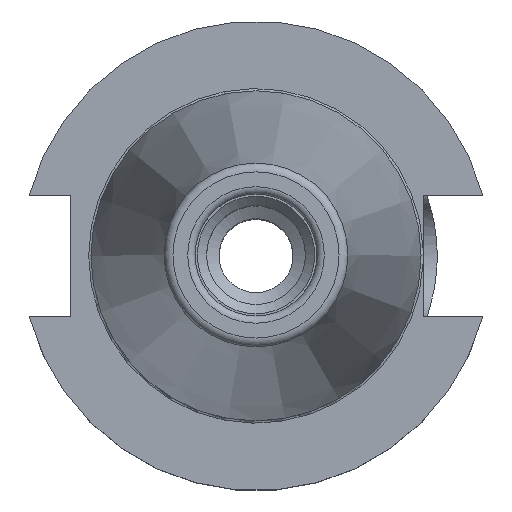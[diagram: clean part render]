
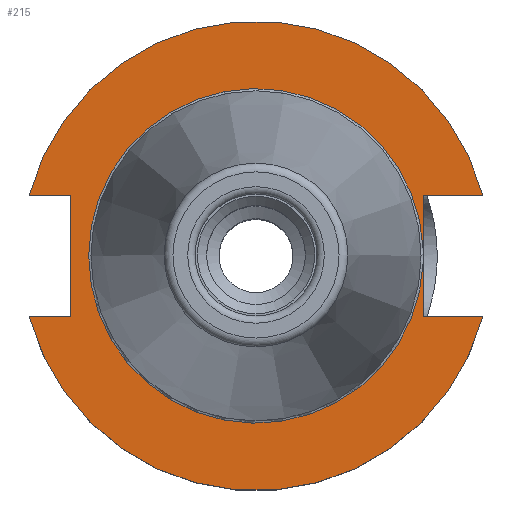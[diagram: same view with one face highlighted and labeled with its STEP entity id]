
A CAD part, top view. The second image highlights one B-rep face of the part: STEP entity #215.
In plain terms, the highlighted planar face has unit normal (0, 0, 1).
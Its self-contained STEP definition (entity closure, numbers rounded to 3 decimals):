
#215 = ADVANCED_FACE( '', ( #459 ), #460, .F. );
#459 = FACE_OUTER_BOUND( '', #704, .T. );
#460 = PLANE( '', #705 );
#704 = EDGE_LOOP( '', ( #1236, #1237, #1238, #1239, #1240, #1241, #1242, #1243, #1244, #1245 ) );
#705 = AXIS2_PLACEMENT_3D( '', #1246, #1247, #1248 );
#1236 = ORIENTED_EDGE( '', *, *, #1433, .F. );
#1237 = ORIENTED_EDGE( '', *, *, #1476, .F. );
#1238 = ORIENTED_EDGE( '', *, *, #1479, .T. );
#1239 = ORIENTED_EDGE( '', *, *, #1504, .T. );
#1240 = ORIENTED_EDGE( '', *, *, #1461, .F. );
#1241 = ORIENTED_EDGE( '', *, *, #1419, .F. );
#1242 = ORIENTED_EDGE( '', *, *, #1358, .T. );
#1243 = ORIENTED_EDGE( '', *, *, #1468, .F. );
#1244 = ORIENTED_EDGE( '', *, *, #1325, .T. );
#1245 = ORIENTED_EDGE( '', *, *, #1466, .F. );
#1246 = CARTESIAN_POINT( '', ( 0., 22.688, -3.175 ) );
#1247 = DIRECTION( '', ( 0., 0., -1. ) );
#1248 = DIRECTION( '', ( -1., 0., 0. ) );
#1325 = EDGE_CURVE( '', #1556, #1557, #1558, .T. );
#1358 = EDGE_CURVE( '', #1614, #1612, #1615, .T. );
#1419 = EDGE_CURVE( '', #1614, #1714, #1715, .T. );
#1433 = EDGE_CURVE( '', #1735, #1737, #1738, .T. );
#1461 = EDGE_CURVE( '', #1714, #1779, #1780, .T. );
#1466 = EDGE_CURVE( '', #1737, #1557, #1786, .T. );
#1468 = EDGE_CURVE( '', #1556, #1612, #1788, .T. );
#1476 = EDGE_CURVE( '', #1797, #1735, #1799, .T. );
#1479 = EDGE_CURVE( '', #1797, #1802, #1804, .T. );
#1504 = EDGE_CURVE( '', #1802, #1779, #1831, .T. );
#1556 = VERTEX_POINT( '', #1903 );
#1557 = VERTEX_POINT( '', #1904 );
#1558 = CIRCLE( '', #1905, 22.623 );
#1612 = VERTEX_POINT( '', #1983 );
#1614 = VERTEX_POINT( '', #1986 );
#1615 = LINE( '', #1987, #1988 );
#1714 = VERTEX_POINT( '', #2354 );
#1715 = CIRCLE( '', #2355, 31.75 );
#1735 = VERTEX_POINT( '', #2393 );
#1737 = VERTEX_POINT( '', #2396 );
#1738 = LINE( '', #2397, #2398 );
#1779 = VERTEX_POINT( '', #2508 );
#1780 = LINE( '', #2509, #2510 );
#1786 = LINE( '', #2518, #2519 );
#1788 = LINE( '', #2522, #2523 );
#1797 = VERTEX_POINT( '', #2534 );
#1799 = CIRCLE( '', #2537, 31.75 );
#1802 = VERTEX_POINT( '', #2540 );
#1804 = LINE( '', #2543, #2544 );
#1831 = LINE( '', #2612, #2613 );
#1903 = CARTESIAN_POINT( '', ( 22.606, -0.888, -3.175 ) );
#1904 = CARTESIAN_POINT( '', ( 22.606, 0.888, -3.175 ) );
#1905 = AXIS2_PLACEMENT_3D( '', #2685, #2686, #2687 );
#1983 = CARTESIAN_POINT( '', ( 22.606, -8.192, -3.175 ) );
#1986 = CARTESIAN_POINT( '', ( 30.675, -8.192, -3.175 ) );
#1987 = CARTESIAN_POINT( '', ( 72.606, -8.192, -3.175 ) );
#1988 = VECTOR( '', #2740, 1000. );
#2354 = CARTESIAN_POINT( '', ( -30.675, -8.192, -3.175 ) );
#2355 = AXIS2_PLACEMENT_3D( '', #2799, #2800, #2801 );
#2393 = CARTESIAN_POINT( '', ( 30.675, 8.192, -3.175 ) );
#2396 = CARTESIAN_POINT( '', ( 22.606, 8.192, -3.175 ) );
#2397 = CARTESIAN_POINT( '', ( 72.606, 8.192, -3.175 ) );
#2398 = VECTOR( '', #2814, 1000. );
#2508 = CARTESIAN_POINT( '', ( -25.019, -8.192, -3.175 ) );
#2509 = CARTESIAN_POINT( '', ( -75.019, -8.192, -3.175 ) );
#2510 = VECTOR( '', #2845, 1000. );
#2518 = CARTESIAN_POINT( '', ( 22.606, 8.192, -3.175 ) );
#2519 = VECTOR( '', #2848, 1000. );
#2522 = CARTESIAN_POINT( '', ( 22.606, 8.192, -3.175 ) );
#2523 = VECTOR( '', #2850, 1000. );
#2534 = CARTESIAN_POINT( '', ( -30.675, 8.192, -3.175 ) );
#2537 = AXIS2_PLACEMENT_3D( '', #2860, #2861, #2862 );
#2540 = CARTESIAN_POINT( '', ( -25.019, 8.192, -3.175 ) );
#2543 = CARTESIAN_POINT( '', ( -75.019, 8.192, -3.175 ) );
#2544 = VECTOR( '', #2864, 1000. );
#2612 = CARTESIAN_POINT( '', ( -25.019, 8.192, -3.175 ) );
#2613 = VECTOR( '', #2883, 1000. );
#2685 = CARTESIAN_POINT( '', ( 0., 0., -3.175 ) );
#2686 = DIRECTION( '', ( 0., 0., -1. ) );
#2687 = DIRECTION( '', ( -1., 0., 0. ) );
#2740 = DIRECTION( '', ( -1., 0., 0. ) );
#2799 = CARTESIAN_POINT( '', ( 0., 0., -3.175 ) );
#2800 = DIRECTION( '', ( 0., 0., -1. ) );
#2801 = DIRECTION( '', ( -1., 0., 0. ) );
#2814 = DIRECTION( '', ( -1., 0., 0. ) );
#2845 = DIRECTION( '', ( 1., 0., 0. ) );
#2848 = DIRECTION( '', ( 0., -1., 0. ) );
#2850 = DIRECTION( '', ( 0., -1., 0. ) );
#2860 = CARTESIAN_POINT( '', ( 0., 0., -3.175 ) );
#2861 = DIRECTION( '', ( 0., 0., -1. ) );
#2862 = DIRECTION( '', ( -1., 0., 0. ) );
#2864 = DIRECTION( '', ( 1., 0., 0. ) );
#2883 = DIRECTION( '', ( 0., -1., 0. ) );
